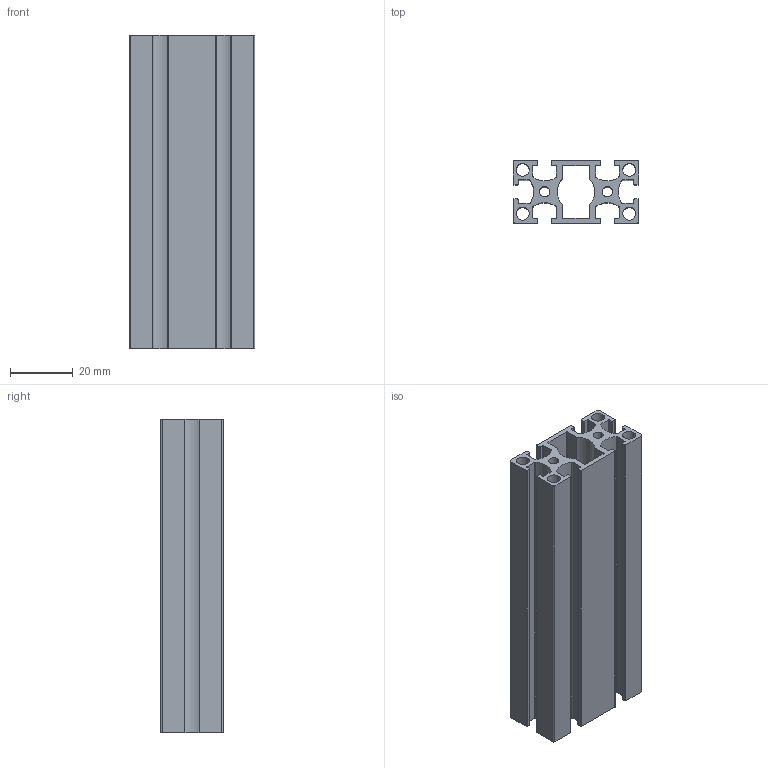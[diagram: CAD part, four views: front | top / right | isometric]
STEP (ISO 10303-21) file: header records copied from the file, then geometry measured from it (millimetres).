
FILE_DESCRIPTION (( 'STEP AP203' ), '1' );
FILE_NAME ('WS2040-4.STEP', '2024-02-17T06:04:18', ( '' ), ( '' ), 'SwSTEP 2.0', 'SolidWorks 2022', '' );
FILE_SCHEMA (( 'CONFIG_CONTROL_DESIGN' ));
Length unit declared in the file: millimetre
Products named in the file (1): WS2040-4
Bounding box: 40 x 20 x 100 mm (x, y, z)
Volume: 31232.6 mm3; surface area: 35073.4 mm2
Topology: 1 solids, 1 shells, 132 faces, 390 edges, 260 vertices
Faces by surface type: cylinder 78, plane 54
Entity records: 4575 total; most frequent: DIRECTION 812, CARTESIAN_POINT 783, ORIENTED_EDGE 780, EDGE_CURVE 390, AXIS2_PLACEMENT_3D 289, VERTEX_POINT 260, VECTOR 234, LINE 234
